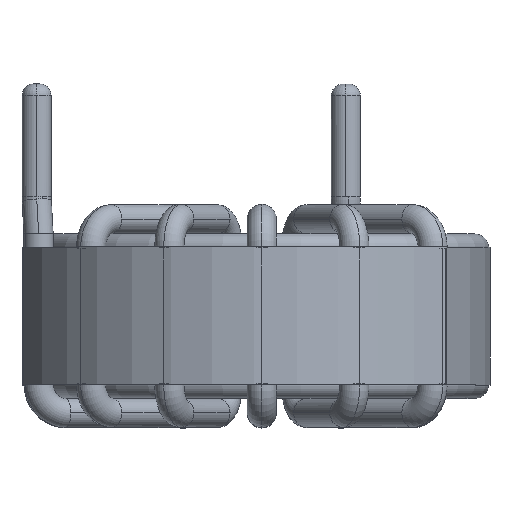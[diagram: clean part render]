
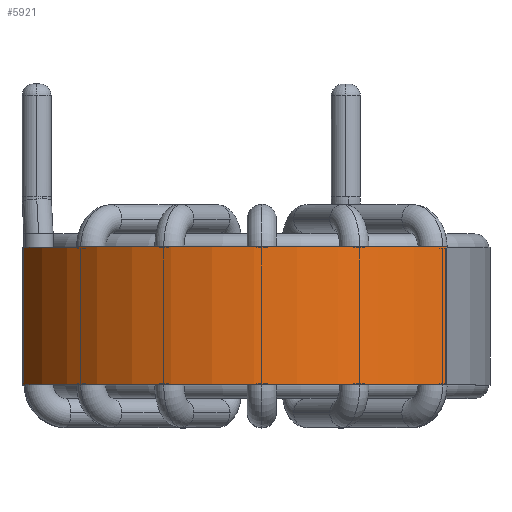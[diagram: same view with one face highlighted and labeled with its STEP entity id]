
A CAD part, top view. The second image highlights one B-rep face of the part: STEP entity #5921.
In plain terms, the highlighted cylindrical face has radius 22.402 mm (diameter 44.805 mm), a partial arc.
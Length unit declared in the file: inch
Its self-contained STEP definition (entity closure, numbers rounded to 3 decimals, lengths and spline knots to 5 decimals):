
#496 = DIRECTION ( 'NONE',  ( 0., -1., 0. ) ) ;
#579 = CARTESIAN_POINT ( 'NONE',  ( -0.81969, 0.23622, 0.32561 ) ) ;
#901 = DIRECTION ( 'NONE',  ( 0., -1., 0. ) ) ;
#1301 = ORIENTED_EDGE ( 'NONE', *, *, #5220, .T. ) ;
#1957 = CARTESIAN_POINT ( 'NONE',  ( 0., -0.23622, 0. ) ) ;
#2425 = CARTESIAN_POINT ( 'NONE',  ( 0.63246, 0.23622, 0.61474 ) ) ;
#2560 = EDGE_LOOP ( 'NONE', ( #5713, #3423, #9632, #1301 ) ) ;
#2701 = FACE_OUTER_BOUND ( 'NONE', #2560, .T. ) ;
#2704 = DIRECTION ( 'NONE',  ( 0., 1., 0. ) ) ;
#3067 = VERTEX_POINT ( 'NONE', #2425 ) ;
#3074 = EDGE_CURVE ( 'NONE', #5894, #7683, #6002, .T. ) ;
#3358 = AXIS2_PLACEMENT_3D ( 'NONE', #6896, #2704, #7703 ) ;
#3423 = ORIENTED_EDGE ( 'NONE', *, *, #5482, .F. ) ;
#3807 = VECTOR ( 'NONE', #6992, 39.37008 ) ;
#4008 = CARTESIAN_POINT ( 'NONE',  ( -0.81969, -0.23622, 0.32561 ) ) ;
#4828 = CARTESIAN_POINT ( 'NONE',  ( 0., 0.23622, 0. ) ) ;
#5220 = EDGE_CURVE ( 'NONE', #7534, #5894, #7326, .T. ) ;
#5482 = EDGE_CURVE ( 'NONE', #3067, #7683, #5581, .T. ) ;
#5581 = LINE ( 'NONE', #9780, #5805 ) ;
#5713 = ORIENTED_EDGE ( 'NONE', *, *, #3074, .T. ) ;
#5805 = VECTOR ( 'NONE', #901, 39.37008 ) ;
#5894 = VERTEX_POINT ( 'NONE', #4008 ) ;
#5921 = ADVANCED_FACE ( 'NONE', ( #2701 ), #9175, .T. ) ;
#5998 = DIRECTION ( 'NONE',  ( 0., 1., 0. ) ) ;
#6002 = CIRCLE ( 'NONE', #7009, 0.88199 ) ;
#6107 = DIRECTION ( 'NONE',  ( 0., 0., -1. ) ) ;
#6896 = CARTESIAN_POINT ( 'NONE',  ( 0., 0.23622, 0. ) ) ;
#6992 = DIRECTION ( 'NONE',  ( 0., -1., 0. ) ) ;
#7009 = AXIS2_PLACEMENT_3D ( 'NONE', #1957, #5998, #7595 ) ;
#7248 = CIRCLE ( 'NONE', #3358, 0.88199 ) ;
#7326 = LINE ( 'NONE', #579, #3807 ) ;
#7377 = EDGE_CURVE ( 'NONE', #7534, #3067, #7248, .T. ) ;
#7534 = VERTEX_POINT ( 'NONE', #9844 ) ;
#7595 = DIRECTION ( 'NONE',  ( 0., 0., 1. ) ) ;
#7601 = AXIS2_PLACEMENT_3D ( 'NONE', #4828, #496, #6107 ) ;
#7683 = VERTEX_POINT ( 'NONE', #8864 ) ;
#7703 = DIRECTION ( 'NONE',  ( 0., 0., 1. ) ) ;
#8864 = CARTESIAN_POINT ( 'NONE',  ( 0.63246, -0.23622, 0.61474 ) ) ;
#9175 = CYLINDRICAL_SURFACE ( 'NONE', #7601, 0.88199 ) ;
#9632 = ORIENTED_EDGE ( 'NONE', *, *, #7377, .F. ) ;
#9780 = CARTESIAN_POINT ( 'NONE',  ( 0.63246, 0.23622, 0.61474 ) ) ;
#9844 = CARTESIAN_POINT ( 'NONE',  ( -0.81969, 0.23622, 0.32561 ) ) ;
